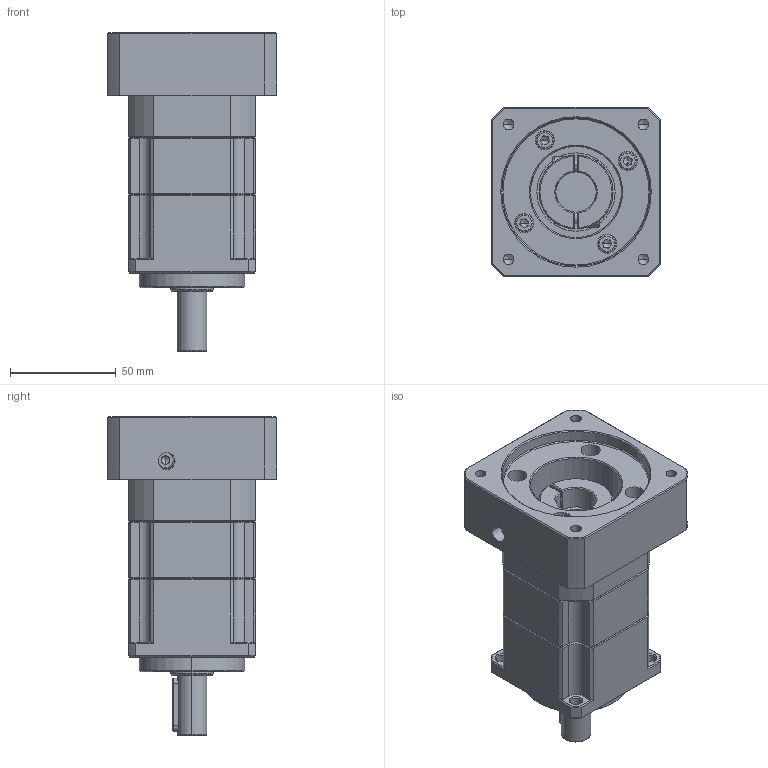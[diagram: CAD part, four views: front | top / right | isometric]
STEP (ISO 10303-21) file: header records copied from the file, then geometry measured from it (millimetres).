
FILE_DESCRIPTION (( 'STEP AP214' ), '1' );
FILE_NAME ('ZPB060-D14-L2-P1-19-70-90-M5.step', '2024-04-23T15:39:19', ( 'Windows 蚚誧' ), ( 'Organization' ), 'SwSTEP 2.0', 'SolidWorks 2016', '' );
FILE_SCHEMA (( 'AUTOMOTIVE_DESIGN' ));
Length unit declared in the file: millimetre
Products named in the file (1): ZPB060-D14-L2-P1-19-70-90-M5
Bounding box: 80 x 80 x 150.5 mm (x, y, z)
Volume: 397242.4 mm3; surface area: 79506.5 mm2
Topology: 10 solids, 18 shells, 1801 faces, 4787 edges, 3087 vertices
Faces by surface type: plane 1034, bspline 373, cylinder 228, cone 154, torus 12
Entity records: 93564 total; most frequent: CARTESIAN_POINT 31520, ORIENTED_EDGE 9498, DIRECTION 7307, EDGE_CURVE 4749, VECTOR 3235, LINE 3235, VERTEX_POINT 3087, AXIS2_PLACEMENT_3D 2036
